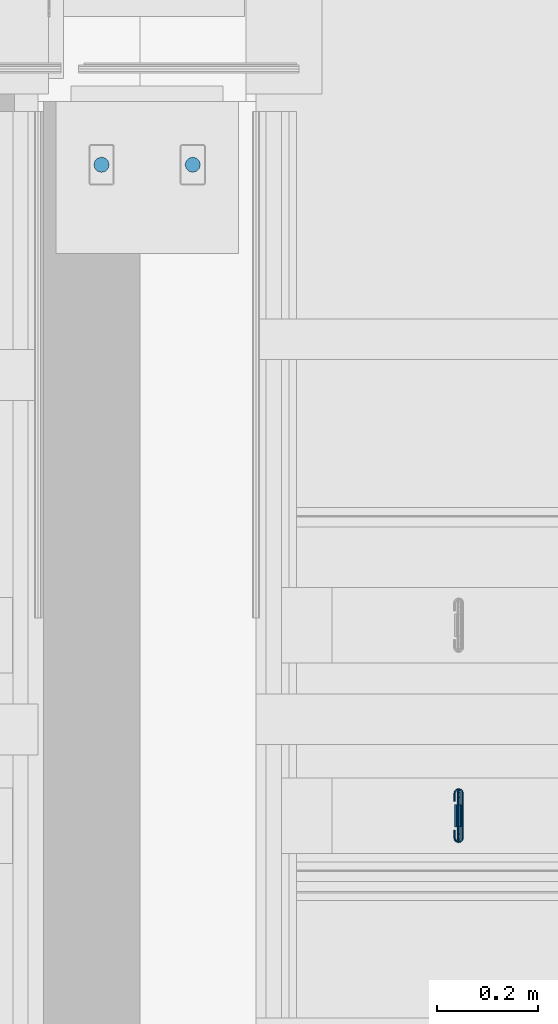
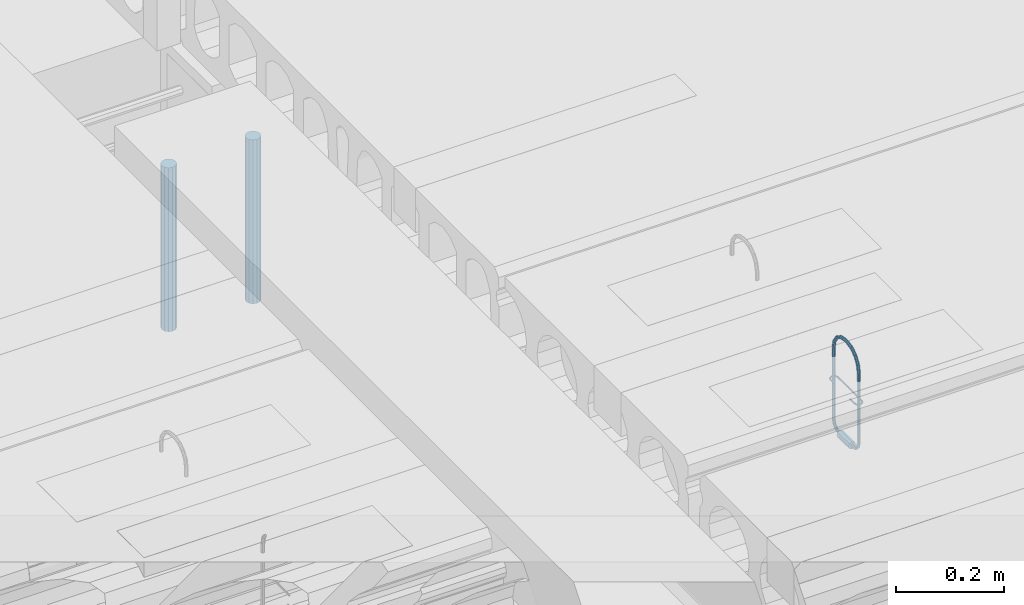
# One storey, part 175 of 230: 3 beams.
"""IFC4X3_ADD2 building model written with IfcOpenShell, lengths in millimetres."""

import ifcopenshell
import ifcopenshell.guid

model = None  # the IFC model being written
_history = None  # IfcOwnerHistory: only IFC2X3 demands one
_inside = {}  # id of a spatial element -> (the spatial element, [elements in it])
_under = {}  # id of a project, library or spatial element -> (it, [spatial elements below it])
_declared = {}  # id of a project -> (the project, [libraries it declares])
_typed = {}  # id of a type object -> (the type object, [elements of that type])
_made_of = {}  # id of a material, layer set ... -> (it, [elements and type objects made of it])


def new_model(schema):
    """Start an empty IFC model of exactly this schema.

    Asked for "IFC4X3", IfcOpenShell would pick the latest addendum, in which some entities
    have other attributes; the version numbers below select the first issue.
    IFC2X3 requires an IfcOwnerHistory on every rooted entity: one is made here for all.
    """
    global model, _history
    if schema == "IFC4X3":
        model = ifcopenshell.file(schema_version=(4, 3, 0, 0))
    else:
        model = ifcopenshell.file(schema=schema)
    _inside.clear()
    _under.clear()
    _declared.clear()
    _typed.clear()
    _made_of.clear()
    _history = None
    if model.schema == "IFC2X3":
        org = make("IfcOrganization", Name="unknown")
        user = make(
            "IfcPersonAndOrganization",
            ThePerson=make("IfcPerson", FamilyName="unknown"),
            TheOrganization=org,
        )
        app = make(
            "IfcApplication",
            ApplicationDeveloper=org,
            Version="unknown",
            ApplicationFullName="unknown",
            ApplicationIdentifier="unknown",
        )
        _history = make(
            "IfcOwnerHistory",
            OwningUser=user,
            OwningApplication=app,
            ChangeAction="ADDED",
            CreationDate=0,
        )
    return model


def make(cls, **values):
    """One entity of the class cls with the attributes given. An attribute that is None is left unset."""
    return model.create_entity(
        cls, **{name: value for name, value in values.items() if value is not None}
    )


def rooted(cls, **values):
    """An entity with a GlobalId (a new one), such as an element, a storey or a relation."""
    return make(cls, GlobalId=ifcopenshell.guid.new(), OwnerHistory=_history, **values)


def si_unit(unit_type, name, prefix=None):
    """IfcSIUnit, for example si_unit("LENGTHUNIT", "METRE", prefix="MILLI")."""
    return make("IfcSIUnit", UnitType=unit_type, Prefix=prefix, Name=name)


def assignment(units):
    """IfcUnitAssignment: the units of a project."""
    return None if units is None else make("IfcUnitAssignment", Units=units)


def point(xyz):
    """IfcCartesianPoint."""
    return None if xyz is None else make("IfcCartesianPoint", Coordinates=xyz)


def direction(xyz):
    """IfcDirection."""
    return None if xyz is None else make("IfcDirection", DirectionRatios=xyz)


def frame(location, z_axis=None, x_axis=None):
    """IfcAxis2Placement3D, a coordinate frame: its origin and axes. An axis left out is left unset."""
    return make(
        "IfcAxis2Placement3D",
        Location=point(location),
        Axis=direction(z_axis),
        RefDirection=direction(x_axis),
    )


def origin_with_axes():
    """The frame at (0, 0, 0) with the z axis (0, 0, 1) and the x axis (1, 0, 0) written out."""
    return frame((0.0, 0.0, 0.0), z_axis=(0.0, 0.0, 1.0), x_axis=(1.0, 0.0, 0.0))


def place(relative_to, where):
    """IfcLocalPlacement: puts the frame where relative to a parent placement (None: the world)."""
    return make(
        "IfcLocalPlacement", PlacementRelTo=relative_to, RelativePlacement=where
    )


def context(
    kind, dimensions, precision=None, world=None, true_north=None, identifier=None
):
    """IfcGeometricRepresentationContext, for example the 3D "Model" context."""
    return make(
        "IfcGeometricRepresentationContext",
        ContextIdentifier=identifier,
        ContextType=kind,
        CoordinateSpaceDimension=dimensions,
        Precision=precision,
        WorldCoordinateSystem=world,
        TrueNorth=true_north,
    )


def subcontext(parent, identifier, kind, view, scale=None):
    """IfcGeometricRepresentationSubContext, for example "Body" below "Model"."""
    return make(
        "IfcGeometricRepresentationSubContext",
        ContextIdentifier=identifier,
        ContextType=kind,
        ParentContext=parent,
        TargetScale=scale,
        TargetView=view,
    )


def project(units=None, contexts=None):
    """IfcProject with its units and contexts."""
    return rooted(
        "IfcProject",
        Name="project",
        RepresentationContexts=contexts,
        UnitsInContext=assignment(units),
    )


def spatial(cls, under=None, at=None, **own):
    """A site, building, storey or space (cls), placed at a placement, below another one or the project."""
    s = rooted(cls, ObjectPlacement=at, **own)
    if under is not None:
        _under.setdefault(under.id(), (under, []))[1].append(s)
    return s


def point_list(points):
    """IfcCartesianPointList2D or 3D."""
    cls = (
        "IfcCartesianPointList2D" if len(points[0]) == 2 else "IfcCartesianPointList3D"
    )
    return make(cls, CoordList=points)


def triangles(points, corners, closed=None, point_numbers=None):
    """IfcTriangulatedFaceSet: each triangle names its three corners, points numbered from 1."""
    return make(
        "IfcTriangulatedFaceSet",
        Coordinates=point_list(points),
        Closed=closed,
        CoordIndex=corners,
        PnIndex=point_numbers,
    )


def polygons(points, faces, closed=None, point_numbers=None):
    """IfcPolygonalFaceSet: a face is its outer loop, then its inner loops; points numbered from 1."""
    made = []
    for loops in faces:
        if len(loops) == 1:
            made.append(make("IfcIndexedPolygonalFace", CoordIndex=loops[0]))
        else:
            made.append(
                make(
                    "IfcIndexedPolygonalFaceWithVoids",
                    CoordIndex=loops[0],
                    InnerCoordIndices=loops[1:],
                )
            )
    return make(
        "IfcPolygonalFaceSet",
        Coordinates=point_list(points),
        Closed=closed,
        Faces=made,
        PnIndex=point_numbers,
    )


def shape(context_of_items, identifier, shape_type, items):
    """IfcShapeRepresentation: the items that make up one representation, for example the "Body"."""
    return make(
        "IfcShapeRepresentation",
        ContextOfItems=context_of_items,
        RepresentationIdentifier=identifier,
        RepresentationType=shape_type,
        Items=items,
    )


def made_of(thing, what):
    """Note that an element or type object is made of a material, layer set ...; save() writes the relation."""
    if what is not None:
        _made_of.setdefault(what.id(), (what, []))[1].append(thing)
    return thing


def element(
    cls,
    number,
    at=None,
    inside=None,
    cuts=None,
    type_object=None,
    material=None,
    context=None,
    identifier="Body",
    shape_type=None,
    held_by="IfcProductDefinitionShape",
    body=None,
    shapes=None,
    **own,
):
    """One element of the class cls, such as IfcWall. Its Tag is "e" and its number.

    at: its placement. inside: the storey or other place that contains it. cuts: it is an
    opening in that element (IfcRelVoidsElement). A single representation is given by context,
    identifier, shape_type and body (its items); several are given by shapes. held_by: the class
    of the entity that holds the representations. save() writes the other relations.
    """
    e = rooted(cls, Tag="e%d" % number, ObjectPlacement=at, **own)
    if body is not None:
        shapes = [shape(context, identifier, shape_type, body)]
    if shapes is not None:
        e.Representation = make(held_by, Representations=shapes)
    if inside is not None:
        _inside.setdefault(inside.id(), (inside, []))[1].append(e)
    if cuts is not None:
        rooted(
            "IfcRelVoidsElement", RelatingBuildingElement=cuts, RelatedOpeningElement=e
        )
    if type_object is not None:
        _typed.setdefault(type_object.id(), (type_object, []))[1].append(e)
    return made_of(e, material)


def aggregate(whole, parts):
    """IfcRelAggregates: a whole, such as a stair, and the parts it consists of."""
    return rooted("IfcRelAggregates", RelatingObject=whole, RelatedObjects=parts)


def save(model, path):
    """Write the relations noted so far, then the file.

    IfcRelAggregates (storeys below a building ...), IfcRelContainedInSpatialStructure (elements
    in a storey), IfcRelDefinesByType, IfcRelAssociatesMaterial and IfcRelDeclares: one each for
    every whole, place, type object, material and project.
    """
    for whole, parts in _under.values():
        aggregate(whole, parts)
    for where, things in _inside.values():
        rooted(
            "IfcRelContainedInSpatialStructure",
            RelatedElements=things,
            RelatingStructure=where,
        )
    for kind, things in _typed.values():
        rooted("IfcRelDefinesByType", RelatedObjects=things, RelatingType=kind)
    for what, things in _made_of.values():
        rooted("IfcRelAssociatesMaterial", RelatedObjects=things, RelatingMaterial=what)
    for by, libraries in _declared.values():
        rooted("IfcRelDeclares", RelatingContext=by, RelatedDefinitions=libraries)
    model.write(path)


model = new_model("IFC4X3_ADD2")

# Units and contexts
model_context = context("Model", 3, precision=1e-05, world=origin_with_axes(), true_north=direction((0.0, 1.0)))
body_context = subcontext(model_context, "Body", "Model", "MODEL_VIEW")
ifc_project = project(units=[si_unit("LENGTHUNIT", "METRE", prefix="MILLI"), si_unit("AREAUNIT", "SQUARE_METRE"), si_unit("VOLUMEUNIT", "CUBIC_METRE"), si_unit("PLANEANGLEUNIT", "RADIAN"), si_unit("TIMEUNIT", "SECOND"), si_unit("MASSUNIT", "GRAM")], contexts=[model_context])

# Site, building, storey
site_placement = place(None, origin_with_axes())
site = spatial("IfcSite", under=ifc_project, at=site_placement, Name="Site", CompositionType="ELEMENT")
building_placement = place(site_placement, origin_with_axes())
building = spatial("IfcBuilding", under=site, at=building_placement, Name="IFC Building Story")
storey_placement = place(building_placement, origin_with_axes())
storey = spatial("IfcBuildingStorey", under=building, at=storey_placement, Name="ETAGE 00 (0)", Elevation=0.0)

# Beams
beam_1_placement = place(storey_placement, origin_with_axes())
element("IfcBeam", 1, at=beam_1_placement, inside=storey, Name="LU2", ObjectType="D7", context=body_context, shape_type="Tessellation", body=[
    triangles([(40583.66235351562, -1384.499939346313, 4036.025157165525), (40583.66235351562, -1388.000016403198, 4036.025157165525), (40581.1880859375, -1384.499939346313, 4034.999929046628), (40581.1880859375, -1388.000016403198, 4034.999929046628), (40584.69019775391, -1384.499939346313, 4038.500006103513), (40584.69019775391, -1388.000016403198, 4038.500006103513), (40583.66235351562, -1388.000016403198, 4040.974855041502), (40583.66235351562, -1384.499939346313, 4040.974855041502), (40581.1880859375, -1388.000016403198, 4042.000083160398), (40581.1880859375, -1384.499939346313, 4042.000083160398), (40578.71381835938, -1388.000016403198, 4040.974855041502), (40578.71381835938, -1384.499939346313, 4040.974855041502), (40577.690625, -1388.000016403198, 4038.500006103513), (40577.690625, -1384.499939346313, 4038.500006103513), (40578.71381835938, -1384.499939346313, 4036.025157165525), (40578.71381835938, -1388.000016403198, 4036.025157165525), (40581.1880859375, -1372.249960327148, 4038.282286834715), (40578.71381835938, -1372.762574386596, 4039.170023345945), (40581.1880859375, -1363.282339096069, 4047.250053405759), (40578.71381835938, -1364.170075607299, 4047.762522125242), (40583.66235351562, -1364.170075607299, 4047.762522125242), (40583.66235351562, -1372.762574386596, 4039.170023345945), (40584.69019775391, -1366.313404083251, 4048.999946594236), (40584.69019775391, -1373.99999885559, 4041.313497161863), (40583.66235351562, -1375.237423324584, 4043.456680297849), (40583.66235351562, -1368.456732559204, 4050.237371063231), (40581.1880859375, -1375.750037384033, 4044.34441680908), (40581.1880859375, -1369.344469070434, 4050.750130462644), (40578.71381835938, -1368.456732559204, 4050.237371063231), (40578.71381835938, -1375.237423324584, 4043.456680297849), (40577.690625, -1366.313404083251, 4048.999946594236), (40577.690625, -1373.99999885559, 4041.313497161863), (40578.71381835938, -1361.025064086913, 4059.499887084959), (40577.690625, -1363.499913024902, 4059.499887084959), (40581.1880859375, -1359.999981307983, 4059.499887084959), (40583.66235351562, -1361.025064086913, 4059.499887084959), (40584.69019775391, -1363.499913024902, 4059.499887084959), (40583.66235351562, -1365.974907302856, 4059.499887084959), (40581.1880859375, -1366.999990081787, 4059.499887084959), (40578.71381835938, -1365.974907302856, 4059.499887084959), (40578.71381835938, -1365.974907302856, 4218.50006561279), (40577.690625, -1363.499913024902, 4218.50006561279), (40578.71381835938, -1369.059602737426, 4234.008421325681), (40577.690625, -1366.773114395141, 4234.955456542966), (40578.71381835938, -1377.844386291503, 4247.155583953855), (40577.690625, -1376.094347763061, 4248.905477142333), (40578.71381835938, -1374.344454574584, 4250.65566101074), (40578.71381835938, -1364.486626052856, 4235.902491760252), (40581.1880859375, -1373.619498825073, 4251.38032608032), (40581.1880859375, -1363.539590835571, 4236.294909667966), (40583.66235351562, -1374.344454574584, 4250.65566101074), (40583.66235351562, -1364.486626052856, 4235.902491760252), (40584.69019775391, -1376.094347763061, 4248.905477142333), (40584.69019775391, -1366.773114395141, 4234.955456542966), (40583.66235351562, -1369.059602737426, 4234.008421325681), (40583.66235351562, -1377.844386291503, 4247.155583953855), (40581.1880859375, -1370.006783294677, 4233.616003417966), (40581.1880859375, -1378.569196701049, 4246.430628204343), (40581.1880859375, -1391.383966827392, 4254.993186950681), (40578.71381835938, -1390.991694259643, 4255.940222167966), (40577.690625, -1390.044659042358, 4258.226710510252), (40578.71381835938, -1389.097478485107, 4260.513198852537), (40581.1880859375, -1388.705205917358, 4261.460524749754), (40583.66235351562, -1389.097478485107, 4260.513198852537), (40584.69019775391, -1390.044659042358, 4258.226710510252), (40583.66235351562, -1390.991694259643, 4255.940222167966), (40583.66235351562, -1406.500049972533, 4259.025208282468), (40581.1880859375, -1406.500049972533, 4257.999980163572), (40578.71381835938, -1406.500049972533, 4259.025208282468), (40577.690625, -1406.500049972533, 4261.500057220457), (40578.71381835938, -1406.500049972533, 4263.974906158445), (40581.1880859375, -1406.500049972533, 4265.000134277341), (40583.66235351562, -1406.500049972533, 4263.974906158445), (40584.69019775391, -1406.500049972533, 4261.500057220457), (40584.69019775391, -1413.499913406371, 4261.500057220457), (40583.66235351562, -1413.499913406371, 4259.025208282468), (40584.69019775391, -1429.955304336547, 4258.226710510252), (40583.66235351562, -1429.008269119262, 4255.940222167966), (40584.69019775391, -1443.905615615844, 4248.905477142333), (40583.66235351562, -1442.155577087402, 4247.155583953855), (40581.1880859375, -1428.615996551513, 4254.993186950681), (40581.1880859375, -1441.430766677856, 4246.430628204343), (40578.71381835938, -1442.155577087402, 4247.155583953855), (40578.71381835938, -1429.008269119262, 4255.940222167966), (40577.690625, -1443.905615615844, 4248.905477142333), (40577.690625, -1429.955304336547, 4258.226710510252), (40578.71381835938, -1445.655508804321, 4250.65566101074), (40578.71381835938, -1430.902484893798, 4260.513198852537), (40581.1880859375, -1446.380464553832, 4251.38032608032), (40581.1880859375, -1431.294757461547, 4261.460524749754), (40583.66235351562, -1445.655508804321, 4250.65566101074), (40583.66235351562, -1430.902484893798, 4260.513198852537), (40584.69019775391, -1453.226848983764, 4234.955456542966), (40583.66235351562, -1455.513337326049, 4235.902491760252), (40583.66235351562, -1450.940360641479, 4234.008421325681), (40581.1880859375, -1449.993180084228, 4233.616003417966), (40578.71381835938, -1450.940360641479, 4234.008421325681), (40577.690625, -1453.226848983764, 4234.955456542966), (40578.71381835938, -1455.513337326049, 4235.902491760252), (40581.1880859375, -1456.460372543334, 4236.294909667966), (40583.66235351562, -1458.974899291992, 4218.50006561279), (40581.1880859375, -1459.999982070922, 4218.50006561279), (40584.69019775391, -1456.500050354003, 4218.50006561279), (40583.66235351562, -1454.025056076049, 4218.50006561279), (40581.1880859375, -1452.999973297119, 4218.50006561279), (40578.71381835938, -1454.025056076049, 4218.50006561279), (40577.690625, -1456.500050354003, 4218.50006561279), (40578.71381835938, -1458.974899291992, 4218.50006561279), (40581.1880859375, -1459.999982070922, 4059.499887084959), (40578.71381835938, -1458.974899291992, 4059.499887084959), (40581.1880859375, -1456.717624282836, 4047.250053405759), (40578.71381835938, -1455.829887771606, 4047.762522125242), (40581.1880859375, -1447.750003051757, 4038.282286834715), (40578.71381835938, -1447.237388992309, 4039.170023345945), (40583.66235351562, -1447.237388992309, 4039.170023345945), (40583.66235351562, -1455.829887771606, 4047.762522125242), (40584.69019775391, -1445.999964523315, 4041.313497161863), (40584.69019775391, -1453.686559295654, 4048.999946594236), (40583.66235351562, -1451.543230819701, 4050.237371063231), (40583.66235351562, -1444.762540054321, 4043.456680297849), (40581.1880859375, -1450.655494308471, 4050.750130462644), (40581.1880859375, -1444.249925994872, 4044.34441680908), (40578.71381835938, -1444.762540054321, 4043.456680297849), (40578.71381835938, -1451.543230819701, 4050.237371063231), (40577.690625, -1445.999964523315, 4041.313497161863), (40577.690625, -1453.686559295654, 4048.999946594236), (40578.71381835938, -1435.500024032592, 4036.025157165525), (40577.690625, -1435.500024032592, 4038.500006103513), (40581.1880859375, -1435.500024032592, 4034.999929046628), (40583.66235351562, -1435.500024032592, 4036.025157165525), (40584.69019775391, -1435.500024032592, 4038.500006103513), (40583.66235351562, -1435.500024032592, 4040.974855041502), (40581.1880859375, -1435.500024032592, 4042.000083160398), (40578.71381835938, -1435.500024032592, 4040.974855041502), (40578.71381835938, -1431.999946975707, 4040.974855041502), (40577.690625, -1431.999946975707, 4038.500006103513), (40581.1880859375, -1431.999946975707, 4042.000083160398), (40583.66235351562, -1431.999946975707, 4040.974855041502), (40584.69019775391, -1431.999946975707, 4038.500006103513), (40583.66235351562, -1431.999946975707, 4036.025157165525), (40581.1880859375, -1431.999946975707, 4034.999929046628), (40578.71381835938, -1431.999946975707, 4036.025157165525), (40589.18759765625, -1431.999946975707, 4038.500006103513), (40581.1880859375, -1431.999946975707, 4046.500099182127), (40575.5326171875, -1431.999946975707, 4044.156928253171), (40573.18857421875, -1431.999946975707, 4038.500006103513), (40586.8435546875, -1431.999946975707, 4044.156928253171), (40575.5326171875, -1431.999946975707, 4032.843083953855), (40581.1880859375, -1431.999946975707, 4030.4999130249), (40586.8435546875, -1431.999946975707, 4032.843083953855), (40586.8435546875, -1388.000016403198, 4032.843083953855), (40581.1880859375, -1388.000016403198, 4030.4999130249), (40589.18759765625, -1388.000016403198, 4038.500006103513), (40586.8435546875, -1388.000016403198, 4044.156928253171), (40581.1880859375, -1388.000016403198, 4046.500099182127), (40575.5326171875, -1388.000016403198, 4044.156928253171), (40573.18857421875, -1388.000016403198, 4038.500006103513), (40575.5326171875, -1388.000016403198, 4032.843083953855), (40577.690625, -1456.500050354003, 4059.499887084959), (40578.71381835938, -1454.025056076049, 4059.499887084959), (40581.1880859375, -1452.999973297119, 4059.499887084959), (40583.66235351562, -1454.025056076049, 4059.499887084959), (40584.69019775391, -1456.500050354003, 4059.499887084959), (40583.66235351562, -1458.974899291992, 4059.499887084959), (40583.66235351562, -1413.499913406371, 4263.974906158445), (40581.1880859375, -1413.499913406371, 4265.000134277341), (40578.71381835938, -1413.499913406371, 4263.974906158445), (40577.690625, -1413.499913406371, 4261.500057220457), (40578.71381835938, -1413.499913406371, 4259.025208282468), (40581.1880859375, -1413.499913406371, 4257.999980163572), (40581.1880859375, -1366.999990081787, 4218.50006561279), (40583.66235351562, -1365.974907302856, 4218.50006561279), (40584.69019775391, -1363.499913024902, 4218.50006561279), (40583.66235351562, -1361.025064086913, 4218.50006561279), (40581.1880859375, -1359.999981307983, 4218.50006561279), (40578.71381835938, -1361.025064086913, 4218.50006561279), (40575.0907836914, -1365.940025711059, 4149.999886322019), (40575.0907836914, -1381.999946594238, 4149.999886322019), (40574.13735351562, -1365.940025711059, 4148.354637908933), (40574.13735351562, -1381.999946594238, 4148.354637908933), (40575.88608398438, -1362.970003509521, 4149.999886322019), (40575.06287841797, -1362.49503250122, 4148.354637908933), (40577.58365478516, -1359.973093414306, 4148.354637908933), (40578.05804443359, -1360.795862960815, 4149.999886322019), (40577.58365478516, -1359.973093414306, 4151.645425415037), (40575.06287841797, -1362.49503250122, 4151.645425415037), (40581.02995605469, -1359.050039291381, 4151.645425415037), (40581.02995605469, -1357.150009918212, 4151.645425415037), (40576.63487548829, -1358.327554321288, 4151.645425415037), (40572.23979492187, -1454.059937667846, 4151.645425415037), (40575.06287841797, -1457.504930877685, 4151.645425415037), (40574.13735351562, -1454.059937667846, 4151.645425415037), (40572.23979492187, -1438.000016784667, 4151.645425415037), (40573.41646728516, -1458.455018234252, 4151.645425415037), (40574.13735351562, -1438.000016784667, 4151.645425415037), (40576.63487548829, -1461.672409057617, 4151.645425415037), (40581.02995605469, -1460.949924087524, 4151.645425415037), (40577.58365478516, -1460.026869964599, 4151.645425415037), (40581.02995605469, -1462.849953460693, 4151.645425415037), (40572.23979492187, -1365.940025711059, 4151.645425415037), (40573.41646728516, -1361.544945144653, 4151.645425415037), (40572.23979492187, -1381.999946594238, 4151.645425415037), (40574.13735351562, -1365.940025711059, 4151.645425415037), (40574.13735351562, -1381.999946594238, 4151.645425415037), (40584.79251708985, -1460.026869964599, 4151.645425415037), (40585.74594726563, -1461.672409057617, 4151.645425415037), (40588.95970458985, -1458.455018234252, 4151.645425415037), (40581.35086669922, -1462.849953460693, 4151.645425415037), (40581.35086669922, -1460.949924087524, 4151.645425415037), (40587.31794433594, -1457.504930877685, 4151.645425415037), (40590.14102783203, -1454.059937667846, 4151.645425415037), (40588.23881835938, -1454.059937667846, 4151.645425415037), (40588.23881835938, -1365.940025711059, 4151.645425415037), (40585.74594726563, -1358.327554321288, 4151.645425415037), (40584.79251708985, -1359.973093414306, 4151.645425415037), (40588.95970458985, -1361.544945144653, 4151.645425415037), (40581.35086669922, -1357.150009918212, 4151.645425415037), (40581.35086669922, -1359.050039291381, 4151.645425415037), (40590.14102783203, -1365.940025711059, 4151.645425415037), (40587.31794433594, -1362.49503250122, 4151.645425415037), (40572.23979492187, -1438.000016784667, 4148.354637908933), (40574.13735351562, -1438.000016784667, 4148.354637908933), (40575.0907836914, -1438.000016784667, 4149.999886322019), (40571.291015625, -1438.000016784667, 4149.999886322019), (40575.0907836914, -1454.059937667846, 4149.999886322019), (40574.13735351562, -1454.059937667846, 4148.354637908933), (40576.63487548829, -1461.672409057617, 4148.354637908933), (40581.02995605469, -1460.949924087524, 4148.354637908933), (40581.02995605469, -1462.849953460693, 4148.354637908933), (40572.23979492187, -1365.940025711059, 4148.354637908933), (40572.23979492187, -1381.999946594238, 4148.354637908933), (40573.41646728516, -1361.544945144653, 4148.354637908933), (40576.63487548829, -1358.327554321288, 4148.354637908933), (40581.02995605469, -1359.050039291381, 4148.354637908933), (40581.02995605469, -1357.150009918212, 4148.354637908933), (40572.23979492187, -1454.059937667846, 4148.354637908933), (40575.06287841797, -1457.504930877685, 4148.354637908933), (40573.41646728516, -1458.455018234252, 4148.354637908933), (40577.58365478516, -1460.026869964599, 4148.354637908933), (40584.79251708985, -1359.973093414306, 4148.354637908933), (40585.74594726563, -1358.327554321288, 4148.354637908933), (40588.95970458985, -1361.544945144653, 4148.354637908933), (40581.35086669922, -1357.150009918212, 4148.354637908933), (40581.35086669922, -1359.050039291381, 4148.354637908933), (40587.31794433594, -1362.49503250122, 4148.354637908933), (40590.14102783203, -1365.940025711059, 4148.354637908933), (40588.23881835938, -1365.940025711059, 4148.354637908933), (40588.23881835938, -1454.059937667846, 4148.354637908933), (40585.74594726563, -1461.672409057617, 4148.354637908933), (40584.79251708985, -1460.026869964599, 4148.354637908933), (40588.95970458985, -1458.455018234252, 4148.354637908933), (40581.35086669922, -1462.849953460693, 4148.354637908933), (40581.35086669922, -1460.949924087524, 4148.354637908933), (40590.14102783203, -1454.059937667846, 4148.354637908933), (40587.31794433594, -1457.504930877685, 4148.354637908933), (40571.291015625, -1454.059937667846, 4149.999886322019), (40572.59326171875, -1458.929989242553, 4149.999886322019), (40576.16048583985, -1462.495033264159, 4149.999886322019), (40581.02995605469, -1463.80004081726, 4149.999886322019), (40581.35086669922, -1463.80004081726, 4149.999886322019), (40586.22033691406, -1462.495033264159, 4149.999886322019), (40589.78291015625, -1458.929989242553, 4149.999886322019), (40591.08980712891, -1454.059937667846, 4149.999886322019), (40591.08980712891, -1365.940025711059, 4149.999886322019), (40589.78291015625, -1361.069974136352, 4149.999886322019), (40586.22033691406, -1357.504930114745, 4149.999886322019), (40581.35086669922, -1356.199922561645, 4149.999886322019), (40581.02995605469, -1356.199922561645, 4149.999886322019), (40576.16048583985, -1357.504930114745, 4149.999886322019), (40572.59326171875, -1361.069974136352, 4149.999886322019), (40571.291015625, -1365.940025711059, 4149.999886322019), (40571.291015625, -1381.999946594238, 4149.999886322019), (40581.02995605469, -1359.999981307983, 4149.999886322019), (40581.35086669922, -1359.999981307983, 4149.999886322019), (40584.31812744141, -1360.795862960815, 4149.999886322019), (40586.49473876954, -1362.970003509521, 4149.999886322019), (40587.2900390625, -1365.940025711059, 4149.999886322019), (40587.2900390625, -1454.059937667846, 4149.999886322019), (40586.49473876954, -1457.029959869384, 4149.999886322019), (40584.31812744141, -1459.204245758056, 4149.999886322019), (40581.35086669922, -1459.999982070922, 4149.999886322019), (40581.02995605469, -1459.999982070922, 4149.999886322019), (40578.05804443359, -1459.204245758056, 4149.999886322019), (40575.88608398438, -1457.029959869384, 4149.999886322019)], [[1, 2, 3], [4, 3, 2], [5, 6, 1], [2, 1, 6], [6, 5, 7], [8, 7, 5], [7, 8, 9], [10, 9, 8], [9, 10, 11], [12, 11, 10], [11, 12, 13], [14, 13, 12], [15, 16, 14], [13, 14, 16], [3, 4, 15], [16, 15, 4], [17, 3, 18], [15, 18, 3], [19, 17, 20], [18, 20, 17], [21, 22, 17], [17, 19, 21], [23, 24, 22], [22, 21, 23], [24, 23, 25], [26, 25, 23], [25, 26, 27], [28, 27, 26], [27, 28, 29], [29, 30, 27], [30, 29, 31], [31, 32, 30], [20, 18, 31], [32, 31, 18], [33, 20, 34], [31, 34, 20], [35, 19, 33], [20, 33, 19], [36, 21, 19], [19, 35, 36], [37, 23, 21], [21, 36, 37], [23, 37, 26], [38, 26, 37], [26, 38, 28], [39, 28, 38], [28, 39, 40], [40, 29, 28], [29, 40, 34], [34, 31, 29], [40, 41, 42], [42, 34, 40], [41, 43, 44], [44, 42, 41], [43, 45, 46], [46, 44, 43], [47, 48, 46], [44, 46, 48], [49, 50, 47], [48, 47, 50], [51, 52, 50], [50, 49, 51], [53, 54, 52], [52, 51, 53], [54, 53, 55], [56, 55, 53], [55, 56, 57], [58, 57, 56], [57, 58, 45], [45, 43, 57], [58, 59, 60], [60, 45, 58], [45, 60, 61], [61, 46, 45], [62, 47, 61], [46, 61, 47], [63, 49, 62], [47, 62, 49], [64, 51, 49], [49, 63, 64], [65, 53, 51], [51, 64, 65], [53, 65, 56], [66, 56, 65], [56, 66, 58], [59, 58, 66], [66, 67, 59], [68, 59, 67], [59, 68, 69], [69, 60, 59], [60, 69, 70], [70, 61, 60], [71, 62, 70], [61, 70, 62], [72, 63, 71], [62, 71, 63], [73, 64, 63], [63, 72, 73], [74, 65, 64], [64, 73, 74], [65, 74, 66], [67, 66, 74], [74, 75, 67], [76, 67, 75], [75, 77, 76], [78, 76, 77], [77, 79, 78], [80, 78, 79], [78, 80, 81], [82, 81, 80], [81, 82, 83], [83, 84, 81], [84, 83, 85], [85, 86, 84], [87, 88, 85], [86, 85, 88], [89, 90, 87], [88, 87, 90], [91, 92, 90], [90, 89, 91], [79, 77, 92], [92, 91, 79], [93, 79, 91], [91, 94, 93], [79, 93, 80], [95, 80, 93], [80, 95, 82], [96, 82, 95], [82, 96, 97], [97, 83, 82], [83, 97, 98], [98, 85, 83], [99, 87, 98], [85, 98, 87], [100, 89, 99], [87, 99, 89], [94, 91, 89], [89, 100, 94], [101, 94, 100], [100, 102, 101], [103, 93, 94], [94, 101, 103], [93, 103, 95], [104, 95, 103], [95, 104, 96], [105, 96, 104], [96, 105, 106], [106, 97, 96], [97, 106, 107], [107, 98, 97], [108, 99, 107], [98, 107, 99], [102, 100, 108], [99, 108, 100], [109, 102, 110], [108, 110, 102], [111, 109, 112], [110, 112, 109], [113, 111, 114], [112, 114, 111], [115, 116, 111], [111, 113, 115], [117, 118, 116], [116, 115, 117], [118, 117, 119], [120, 119, 117], [119, 120, 121], [122, 121, 120], [121, 122, 123], [123, 124, 121], [124, 123, 125], [125, 126, 124], [114, 112, 125], [126, 125, 112], [127, 114, 128], [125, 128, 114], [129, 113, 127], [114, 127, 113], [130, 115, 113], [113, 129, 130], [131, 117, 115], [115, 130, 131], [117, 131, 120], [132, 120, 131], [120, 132, 122], [133, 122, 132], [122, 133, 134], [134, 123, 122], [123, 134, 128], [128, 125, 123], [134, 135, 136], [136, 128, 134], [133, 137, 134], [135, 134, 137], [132, 138, 137], [137, 133, 132], [131, 139, 132], [138, 132, 139], [139, 131, 130], [130, 140, 139], [140, 130, 141], [129, 141, 130], [141, 129, 127], [127, 142, 141], [142, 127, 136], [128, 136, 127], [138, 139, 143], [135, 137, 144], [144, 145, 135], [146, 136, 135], [146, 135, 145], [147, 137, 138], [137, 147, 144], [138, 143, 147], [148, 136, 146], [142, 149, 141], [142, 136, 148], [148, 149, 142], [150, 143, 139], [139, 140, 150], [141, 150, 140], [150, 141, 149], [151, 150, 152], [149, 152, 150], [153, 143, 151], [150, 151, 143], [143, 153, 147], [154, 147, 153], [147, 154, 144], [155, 144, 154], [144, 155, 145], [156, 145, 155], [145, 156, 146], [157, 146, 156], [158, 148, 157], [146, 157, 148], [152, 149, 158], [148, 158, 149], [11, 13, 157], [7, 9, 155], [155, 154, 7], [153, 6, 7], [153, 7, 154], [156, 9, 11], [9, 156, 155], [11, 157, 156], [151, 6, 153], [2, 152, 4], [2, 6, 151], [151, 152, 2], [158, 157, 13], [13, 16, 158], [4, 158, 16], [158, 4, 152], [112, 110, 126], [159, 126, 110], [160, 124, 126], [126, 159, 160], [161, 121, 124], [124, 160, 161], [162, 119, 161], [121, 161, 119], [163, 118, 162], [119, 162, 118], [118, 163, 164], [164, 116, 118], [116, 164, 109], [109, 111, 116], [164, 101, 102], [102, 109, 164], [163, 103, 164], [101, 164, 103], [103, 163, 104], [162, 104, 163], [104, 162, 105], [161, 105, 162], [105, 161, 160], [160, 106, 105], [106, 160, 159], [159, 107, 106], [110, 108, 107], [107, 159, 110], [77, 75, 165], [165, 92, 77], [92, 165, 166], [166, 90, 92], [90, 166, 88], [167, 88, 166], [88, 167, 86], [168, 86, 167], [169, 84, 86], [86, 168, 169], [170, 81, 84], [84, 169, 170], [76, 78, 170], [81, 170, 78], [67, 76, 68], [170, 68, 76], [68, 170, 169], [169, 69, 68], [69, 169, 168], [168, 70, 69], [167, 71, 70], [70, 168, 167], [166, 72, 71], [71, 167, 166], [165, 73, 166], [72, 166, 73], [75, 74, 165], [73, 165, 74], [171, 57, 43], [43, 41, 171], [172, 55, 171], [57, 171, 55], [173, 54, 172], [55, 172, 54], [54, 173, 174], [174, 52, 54], [52, 174, 175], [175, 50, 52], [50, 175, 48], [176, 48, 175], [48, 176, 44], [42, 44, 176], [176, 33, 34], [34, 42, 176], [175, 35, 176], [33, 176, 35], [174, 36, 35], [35, 175, 174], [173, 37, 174], [36, 174, 37], [37, 173, 38], [172, 38, 173], [38, 172, 39], [171, 39, 172], [39, 171, 41], [41, 40, 39], [18, 15, 32], [14, 32, 15], [12, 30, 32], [32, 14, 12], [10, 27, 30], [30, 12, 10], [8, 25, 10], [27, 10, 25], [5, 24, 8], [25, 8, 24], [24, 5, 1], [1, 22, 24], [22, 1, 3], [3, 17, 22], [177, 178, 179], [180, 179, 178], [181, 177, 179], [179, 182, 181], [183, 184, 181], [181, 182, 183], [184, 185, 181], [186, 181, 185], [187, 188, 189], [190, 191, 192], [190, 192, 193], [190, 194, 191], [195, 193, 192], [196, 197, 198], [198, 191, 194], [199, 197, 196], [196, 198, 194], [200, 186, 201], [202, 203, 200], [204, 203, 202], [200, 203, 186], [185, 189, 201], [201, 186, 185], [189, 185, 187], [205, 206, 207], [197, 199, 208], [208, 209, 197], [209, 206, 205], [206, 209, 208], [210, 207, 211], [207, 210, 205], [212, 211, 213], [211, 212, 210], [214, 215, 216], [217, 188, 187], [187, 218, 217], [218, 215, 214], [214, 217, 218], [213, 219, 220], [219, 213, 211], [220, 216, 215], [216, 220, 219], [195, 221, 193], [222, 195, 223], [193, 221, 224], [195, 222, 221], [223, 225, 226], [226, 222, 223], [227, 228, 229], [230, 182, 179], [230, 179, 231], [230, 232, 182], [180, 231, 179], [233, 234, 183], [183, 182, 232], [235, 234, 233], [233, 183, 232], [236, 237, 238], [221, 226, 236], [222, 226, 221], [236, 226, 237], [239, 227, 238], [238, 237, 239], [227, 239, 228], [240, 241, 242], [243, 234, 235], [243, 244, 234], [244, 243, 241], [240, 244, 241], [245, 242, 246], [242, 245, 240], [247, 246, 248], [246, 247, 245], [249, 250, 251], [252, 229, 228], [228, 253, 252], [253, 250, 249], [249, 252, 253], [248, 254, 255], [254, 248, 246], [255, 251, 250], [251, 255, 254], [221, 236, 256], [256, 224, 221], [190, 193, 256], [224, 256, 193], [257, 194, 256], [190, 256, 194], [238, 257, 256], [256, 236, 238], [227, 258, 238], [257, 238, 258], [258, 196, 194], [194, 257, 258], [259, 199, 196], [196, 258, 259], [260, 208, 259], [199, 259, 208], [261, 206, 260], [208, 260, 206], [249, 261, 260], [260, 252, 249], [252, 260, 259], [259, 229, 252], [229, 259, 227], [258, 227, 259], [251, 262, 261], [261, 249, 251], [262, 207, 261], [206, 261, 207], [263, 211, 207], [207, 262, 263], [263, 264, 211], [219, 211, 264], [219, 264, 216], [265, 216, 264], [264, 246, 242], [242, 265, 264], [264, 263, 254], [254, 246, 264], [254, 263, 251], [262, 251, 263], [265, 242, 266], [241, 266, 242], [216, 265, 266], [266, 214, 216], [214, 266, 267], [267, 217, 214], [217, 267, 268], [268, 188, 217], [188, 268, 189], [269, 189, 268], [268, 235, 233], [233, 269, 268], [267, 243, 268], [235, 268, 243], [266, 241, 267], [243, 267, 241], [269, 233, 232], [232, 270, 269], [189, 269, 201], [270, 201, 269], [201, 270, 271], [271, 200, 201], [202, 200, 272], [271, 272, 200], [202, 180, 204], [231, 202, 272], [204, 180, 178], [202, 231, 180], [230, 231, 271], [272, 271, 231], [270, 232, 271], [230, 271, 232], [178, 177, 203], [203, 204, 178], [177, 181, 203], [186, 203, 181], [234, 273, 184], [184, 183, 234], [273, 187, 184], [185, 184, 187], [274, 218, 273], [187, 273, 218], [275, 215, 218], [218, 274, 275], [276, 220, 215], [215, 275, 276], [213, 220, 276], [276, 277, 213], [212, 213, 277], [277, 278, 212], [210, 212, 279], [278, 279, 212], [210, 279, 205], [280, 205, 279], [205, 280, 209], [281, 209, 280], [209, 281, 197], [282, 197, 281], [197, 282, 283], [283, 198, 197], [198, 283, 284], [284, 191, 198], [284, 225, 192], [192, 191, 284], [225, 223, 192], [195, 192, 223], [225, 284, 226], [237, 226, 284], [283, 239, 284], [237, 284, 239], [282, 228, 283], [239, 283, 228], [281, 253, 228], [228, 282, 281], [280, 250, 253], [253, 281, 280], [279, 255, 250], [250, 280, 279], [248, 255, 279], [279, 278, 248], [247, 248, 277], [278, 277, 248], [245, 247, 276], [277, 276, 247], [245, 276, 240], [275, 240, 276], [240, 275, 244], [274, 244, 275], [244, 274, 273], [273, 234, 244]]),
])
beam_2_placement = place(storey_placement, origin_with_axes())
element("IfcBeam", 2, at=beam_2_placement, inside=storey, Name="SD11", ObjectType="D30", context=body_context, shape_type="Tessellation", body=[
    polygons([(40041.189, -124.9999999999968, 4130.0), (40041.189, -124.9999999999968, 3760.0), (40043.19861894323, -132.4999999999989, 3760.0), (40043.19861894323, -132.4999999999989, 4130.0), (40048.689, -137.9903810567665, 3760.0), (40048.689, -137.9903810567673, 4130.0), (40056.189, -140.0, 3760.0), (40056.189, -140.0, 4130.0), (40063.689, -137.9903810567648, 3760.0), (40063.689, -137.9903810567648, 4130.0), (40069.17938105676, -132.5000000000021, 3760.0), (40069.17938105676, -132.5000000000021, 4130.0), (40071.189, -125.0, 3760.0), (40071.189, -125.0, 4130.0), (40069.17938105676, -117.4999999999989, 3760.0), (40069.17938105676, -117.4999999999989, 4130.0), (40063.689, -112.0096189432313, 3760.0), (40063.689, -112.0096189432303, 4130.0), (40056.189, -110.0, 3760.0), (40056.189, -110.0, 4130.0), (40048.689, -112.0096189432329, 3760.0), (40048.689, -112.0096189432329, 4130.0), (40043.19861894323, -117.4999999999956, 3760.0), (40043.19861894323, -117.4999999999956, 4130.0)], [[[1, 2, 3, 4]], [[4, 3, 5, 6]], [[6, 5, 7, 8]], [[8, 7, 9, 10]], [[10, 9, 11, 12]], [[12, 11, 13, 14]], [[14, 13, 15, 16]], [[16, 15, 17, 18]], [[18, 17, 19, 20]], [[20, 19, 21, 22]], [[22, 21, 23, 24]], [[24, 23, 2, 1]], [[4, 6, 8]], [[4, 8, 10]], [[4, 10, 12]], [[4, 12, 14]], [[4, 14, 16]], [[4, 16, 18]], [[4, 18, 20]], [[4, 20, 22]], [[4, 22, 24]], [[4, 24, 1]], [[2, 23, 21]], [[2, 21, 19]], [[2, 19, 17]], [[2, 17, 15]], [[2, 15, 13]], [[2, 13, 11]], [[2, 11, 9]], [[2, 9, 7]], [[2, 7, 5]], [[2, 5, 3]]]),
])
beam_3_placement = place(storey_placement, origin_with_axes())
element("IfcBeam", 3, at=beam_3_placement, inside=storey, Name="SD11", ObjectType="D30", context=body_context, shape_type="Tessellation", body=[
    polygons([(39861.189, -125.0000000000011, 4130.0), (39861.189, -125.0000000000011, 3760.0), (39863.19861894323, -132.5000000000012, 3760.0), (39863.19861894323, -132.5000000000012, 4130.0), (39868.689, -137.9903810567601, 3760.0), (39868.689, -137.990381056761, 4130.0), (39876.189, -140.0, 3760.0), (39876.189, -140.0, 4130.0), (39883.689, -137.9903810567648, 3760.0), (39883.689, -137.9903810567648, 4130.0), (39889.17938105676, -132.4999999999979, 3760.0), (39889.17938105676, -132.4999999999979, 4130.0), (39891.189, -125.0000000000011, 3760.0), (39891.189, -125.0000000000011, 4130.0), (39889.17938105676, -117.5000000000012, 3760.0), (39889.17938105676, -117.5000000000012, 4130.0), (39883.689, -112.00961894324, 3760.0), (39883.689, -112.0096189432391, 4130.0), (39876.189, -110.0, 3760.0), (39876.189, -110.0, 4130.0), (39868.68899999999, -112.0096189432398, 3760.0), (39868.68899999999, -112.0096189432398, 4130.0), (39863.19861894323, -117.5000000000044, 3760.0), (39863.19861894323, -117.5000000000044, 4130.0)], [[[1, 2, 3, 4]], [[4, 3, 5, 6]], [[6, 5, 7, 8]], [[8, 7, 9, 10]], [[10, 9, 11, 12]], [[12, 11, 13, 14]], [[14, 13, 15, 16]], [[16, 15, 17, 18]], [[18, 17, 19, 20]], [[20, 19, 21, 22]], [[22, 21, 23, 24]], [[24, 23, 2, 1]], [[4, 6, 8]], [[4, 8, 10]], [[4, 10, 12]], [[4, 12, 14]], [[4, 14, 16]], [[4, 16, 18]], [[4, 18, 20]], [[4, 20, 22]], [[4, 22, 24]], [[4, 24, 1]], [[2, 23, 21]], [[2, 21, 19]], [[2, 19, 17]], [[2, 17, 15]], [[2, 15, 13]], [[2, 13, 11]], [[2, 11, 9]], [[2, 9, 7]], [[2, 7, 5]], [[2, 5, 3]]]),
])

save(model, "model.ifc")
